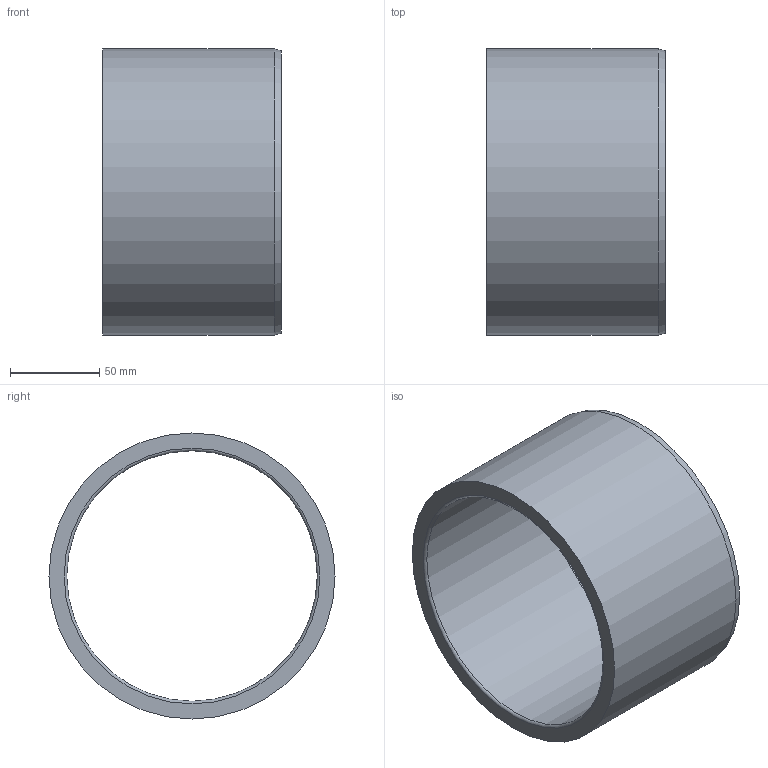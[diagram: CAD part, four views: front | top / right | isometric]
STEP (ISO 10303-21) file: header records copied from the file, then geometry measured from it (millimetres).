
FILE_DESCRIPTION(/* description */ ('Impex Ready, www.impex-ready.pl'),/* implementation_level */ '2;1');
FILE_NAME(/* name */ 'C:\Users\VIKKY\Nextcloud\SM\projekt 10 - części na stronę internetową\Pliki_3D_new\306 Tuleje BG04\306_BG04_STEP\BG04.140160100.ipt.step',/* time_stamp */ '2021-12-17T16:28:33+01:00',/* author */ ('SM'),/* organization */ (''),/* preprocessor_version */ 'ST-DEVELOPER v18.1',/* originating_system */ 'Autodesk Inventor 2021',/* authorisation */ '');
FILE_SCHEMA (('AUTOMOTIVE_DESIGN { 1 0 10303 214 3 1 1 }'));
Length unit declared in the file: millimetre
Products named in the file (1): BG04.140160100
Bounding box: 100 x 160 x 160 mm (x, y, z)
Volume: 469739.4 mm3; surface area: 102630.1 mm2
Topology: 1 solids, 1 shells, 7 faces, 14 edges, 9 vertices
Faces by surface type: torus 2, cylinder 2, plane 2, cone 1
Full cylindrical faces by diameter (mm): 140 x1, 160 x1
Entity records: 261 total; most frequent: DIRECTION 41, CARTESIAN_POINT 31, ORIENTED_EDGE 28, AXIS2_PLACEMENT_3D 19, EDGE_CURVE 14, CIRCLE 11, EDGE_LOOP 9, VERTEX_POINT 9
